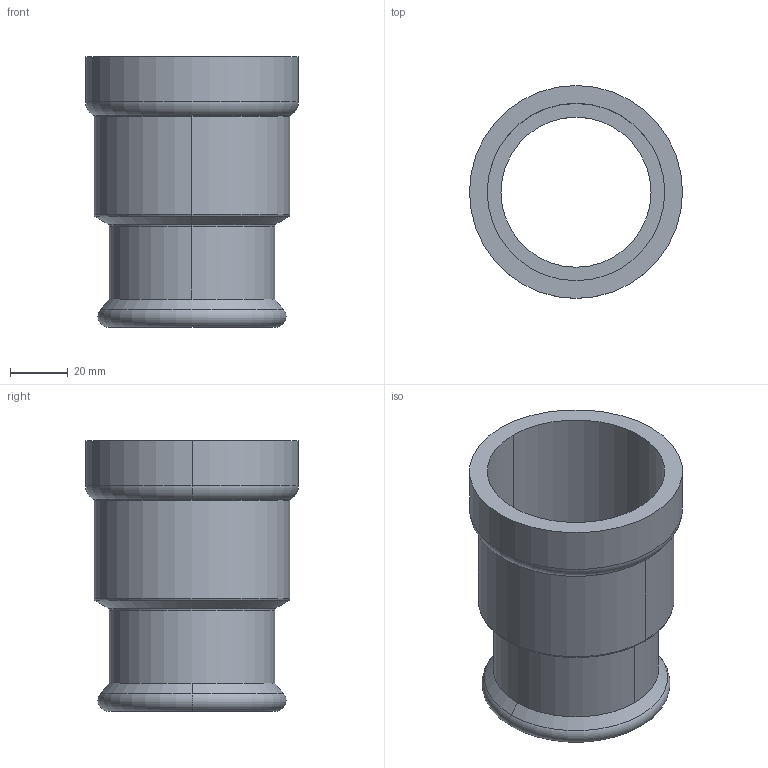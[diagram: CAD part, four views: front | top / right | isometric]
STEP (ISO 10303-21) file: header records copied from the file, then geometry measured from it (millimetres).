
FILE_DESCRIPTION(('Creo Elements/Direct Modeling STEP Export'),'2;1');
FILE_NAME('C9441_2_54.stp','2020-07-20T14:09:32',(''),(''),'PTC Creo Elements/Direct Modeling STEP processor for AP214 (Solid Model)','PTC Creo Elements/Direct Modeling 19.0C 15-Aug-2015 (C) Parametric Technology GmbH','');
FILE_SCHEMA(('AUTOMOTIVE_DESIGN { 1 0 10303 214 1 1 1 1 }'));
Length unit declared in the file: millimetre
Products named in the file (1): C9441_2_54
Bounding box: 73.8 x 73.8 x 93.75 mm (x, y, z)
Volume: 66419.3 mm3; surface area: 40589 mm2
Topology: 1 solids, 1 shells, 30 faces, 68 edges, 42 vertices
Faces by surface type: cylinder 12, torus 10, plane 4, cone 4
Entity records: 765 total; most frequent: ORIENTED_EDGE 136, DIRECTION 132, CARTESIAN_POINT 116, EDGE_CURVE 68, AXIS2_PLACEMENT_3D 58, VERTEX_POINT 42, EDGE_LOOP 34, FACE_OUTER_BOUND 30
